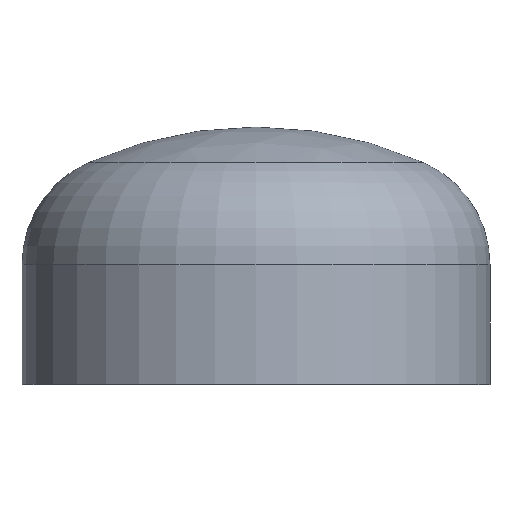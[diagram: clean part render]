
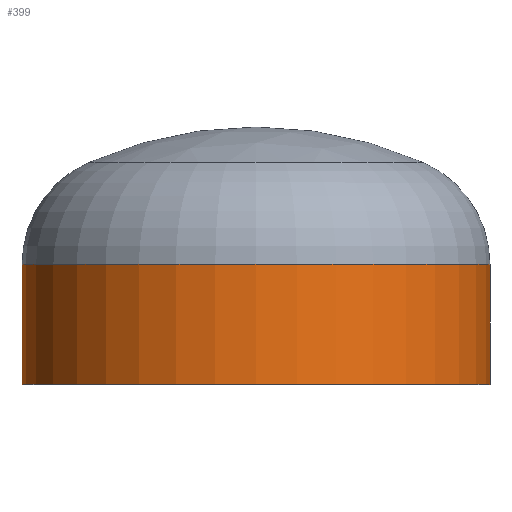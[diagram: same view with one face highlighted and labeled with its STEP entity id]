
A CAD part, top view. The second image highlights one B-rep face of the part: STEP entity #399.
In plain terms, the highlighted cylindrical face has radius 136.5 mm (diameter 273 mm), a partial arc.
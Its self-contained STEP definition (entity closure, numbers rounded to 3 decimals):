
#41 = AXIS2_PLACEMENT_3D ( 'NONE', #187, #188, #191 ) ;
#47 = ORIENTED_EDGE ( 'NONE', *, *, #327, .F. ) ;
#57 = VERTEX_POINT ( 'NONE', #239 ) ;
#65 = AXIS2_PLACEMENT_3D ( 'NONE', #231, #230, #226 ) ;
#67 = EDGE_CURVE ( 'NONE', #81, #57, #189, .T. ) ;
#80 = VERTEX_POINT ( 'NONE', #107 ) ;
#81 = VERTEX_POINT ( 'NONE', #224 ) ;
#87 = EDGE_CURVE ( 'NONE', #197, #80, #211, .T. ) ;
#96 = CYLINDRICAL_SURFACE ( 'NONE', #193, 136.5 ) ;
#101 = DIRECTION ( 'NONE',  ( 0., -1., 0. ) ) ;
#107 = CARTESIAN_POINT ( 'NONE',  ( -136.5, 70., 0. ) ) ;
#152 = VECTOR ( 'NONE', #101, 1000. ) ;
#159 = CARTESIAN_POINT ( 'NONE',  ( 136.5, 0., 0. ) ) ;
#171 = ORIENTED_EDGE ( 'NONE', *, *, #67, .F. ) ;
#173 = ORIENTED_EDGE ( 'NONE', *, *, #356, .T. ) ;
#178 = ORIENTED_EDGE ( 'NONE', *, *, #87, .T. ) ;
#187 = CARTESIAN_POINT ( 'NONE',  ( 0., 70., 0. ) ) ;
#188 = DIRECTION ( 'NONE',  ( 0., -1., 0. ) ) ;
#189 = CIRCLE ( 'NONE', #65, 136.5 ) ;
#191 = DIRECTION ( 'NONE',  ( 1., 0., 0. ) ) ;
#193 = AXIS2_PLACEMENT_3D ( 'NONE', #202, #296, #342 ) ;
#197 = VERTEX_POINT ( 'NONE', #203 ) ;
#202 = CARTESIAN_POINT ( 'NONE',  ( 0., 0., 0. ) ) ;
#203 = CARTESIAN_POINT ( 'NONE',  ( 136.5, 70., 0. ) ) ;
#211 = CIRCLE ( 'NONE', #41, 136.5 ) ;
#224 = CARTESIAN_POINT ( 'NONE',  ( 136.5, 0., 0. ) ) ;
#226 = DIRECTION ( 'NONE',  ( 1., 0., 0. ) ) ;
#230 = DIRECTION ( 'NONE',  ( 0., -1., 0. ) ) ;
#231 = CARTESIAN_POINT ( 'NONE',  ( 0., 0., 0. ) ) ;
#239 = CARTESIAN_POINT ( 'NONE',  ( -136.5, 0., 0. ) ) ;
#243 = LINE ( 'NONE', #159, #152 ) ;
#279 = VECTOR ( 'NONE', #360, 1000. ) ;
#285 = EDGE_LOOP ( 'NONE', ( #178, #173, #171, #47 ) ) ;
#287 = CARTESIAN_POINT ( 'NONE',  ( -136.5, 0., 0. ) ) ;
#296 = DIRECTION ( 'NONE',  ( 0., -1., 0. ) ) ;
#327 = EDGE_CURVE ( 'NONE', #197, #81, #243, .T. ) ;
#334 = FACE_OUTER_BOUND ( 'NONE', #285, .T. ) ;
#342 = DIRECTION ( 'NONE',  ( 1., 0., 0. ) ) ;
#356 = EDGE_CURVE ( 'NONE', #80, #57, #404, .T. ) ;
#360 = DIRECTION ( 'NONE',  ( 0., -1., 0. ) ) ;
#399 = ADVANCED_FACE ( 'NONE', ( #334 ), #96, .T. ) ;
#404 = LINE ( 'NONE', #287, #279 ) ;
